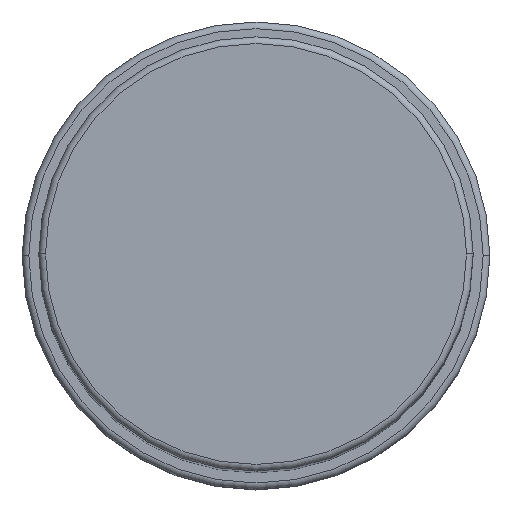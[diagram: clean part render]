
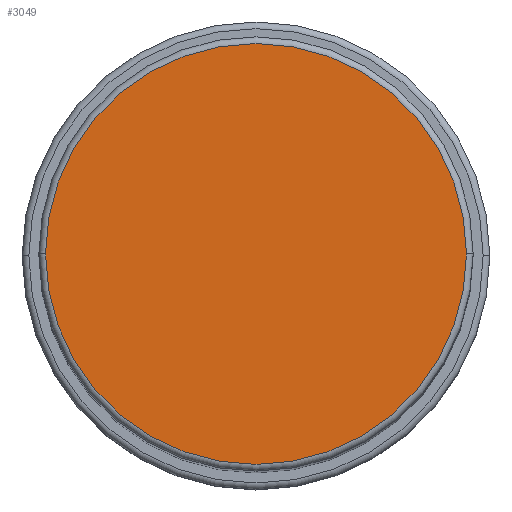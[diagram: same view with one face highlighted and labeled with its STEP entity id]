
A CAD part, top view. The second image highlights one B-rep face of the part: STEP entity #3049.
In plain terms, the highlighted planar face has unit normal (0, 0, 1).
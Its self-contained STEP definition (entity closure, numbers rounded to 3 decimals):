
#725 = CARTESIAN_POINT ( 'NONE',  ( 0., 0., 173. ) ) ;
#882 = VERTEX_POINT ( 'NONE', #3956 ) ;
#1155 = DIRECTION ( 'NONE',  ( 1., 0., 0. ) ) ;
#1533 = EDGE_LOOP ( 'NONE', ( #4676, #4054 ) ) ;
#1558 = VERTEX_POINT ( 'NONE', #4560 ) ;
#1985 = DIRECTION ( 'NONE',  ( 0., 0., 1. ) ) ;
#2212 = EDGE_CURVE ( 'NONE', #882, #1558, #3983, .T. ) ;
#2648 = DIRECTION ( 'NONE',  ( 0., 0., 1. ) ) ;
#2903 = DIRECTION ( 'NONE',  ( 1., 0., 0. ) ) ;
#3049 = ADVANCED_FACE ( 'NONE', ( #3450 ), #4701, .T. ) ;
#3433 = CIRCLE ( 'NONE', #3605, 31.5 ) ;
#3450 = FACE_OUTER_BOUND ( 'NONE', #1533, .T. ) ;
#3605 = AXIS2_PLACEMENT_3D ( 'NONE', #4596, #5015, #2903 ) ;
#3956 = CARTESIAN_POINT ( 'NONE',  ( 31.5, 0., 173. ) ) ;
#3983 = CIRCLE ( 'NONE', #5103, 31.5 ) ;
#4054 = ORIENTED_EDGE ( 'NONE', *, *, #4721, .T. ) ;
#4186 = CARTESIAN_POINT ( 'NONE',  ( 0., 0., 173. ) ) ;
#4219 = AXIS2_PLACEMENT_3D ( 'NONE', #4186, #2648, #4294 ) ;
#4294 = DIRECTION ( 'NONE',  ( 1., 0., 0. ) ) ;
#4560 = CARTESIAN_POINT ( 'NONE',  ( -31.5, 0., 173. ) ) ;
#4596 = CARTESIAN_POINT ( 'NONE',  ( 0., 0., 173. ) ) ;
#4676 = ORIENTED_EDGE ( 'NONE', *, *, #2212, .T. ) ;
#4701 = PLANE ( 'NONE',  #4219 ) ;
#4721 = EDGE_CURVE ( 'NONE', #1558, #882, #3433, .T. ) ;
#5015 = DIRECTION ( 'NONE',  ( 0., 0., 1. ) ) ;
#5103 = AXIS2_PLACEMENT_3D ( 'NONE', #725, #1985, #1155 ) ;
